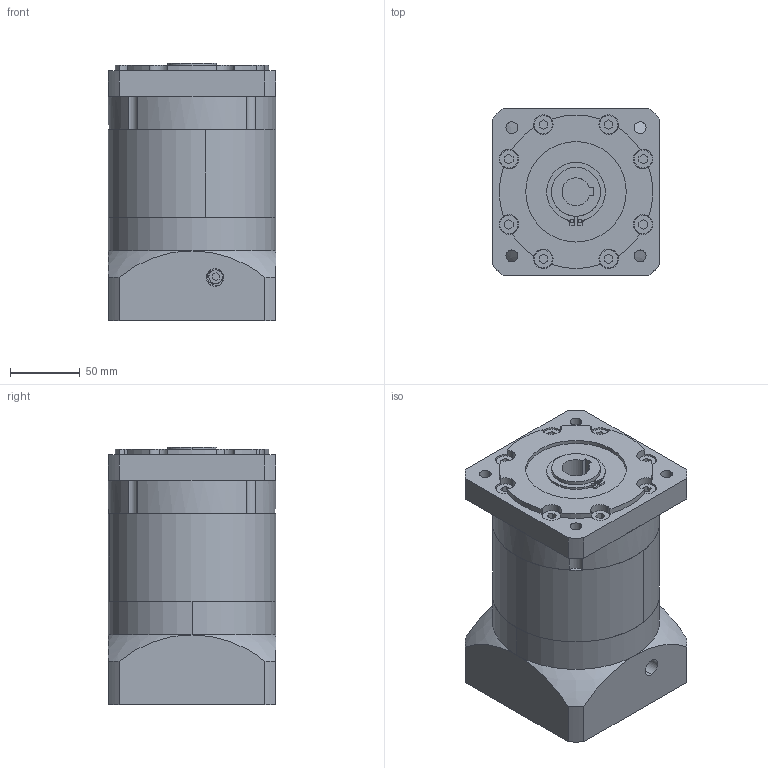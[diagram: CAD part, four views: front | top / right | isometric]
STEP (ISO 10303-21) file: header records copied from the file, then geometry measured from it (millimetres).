
FILE_DESCRIPTION (( 'STEP AP203' ), '1' );
FILE_NAME ('PBF120-L2-22-110-145.STEP', '2022-07-21T09:42:59', ( 'Windows User' ), ( 'P R C' ), 'SwSTEP 2.0', 'SolidWorks 2016', '' );
FILE_SCHEMA (( 'CONFIG_CONTROL_DESIGN' ));
Length unit declared in the file: millimetre
Products named in the file (7): 囀鞠褒蹟佪 M6x20; PBF120 蟀諉啣--LR57; PBF120 內齿圈-优化_二级内齿圈; PBF120 奻屳唳-謂怀堤-20-B6; PBF120 狟屳唳; 粣創-6007 40x68x15; PBF120-L2-22-110-145
Assembly tree (6 placements, depth 2):
  PBF120-L2-22-110-145
    囀鞠褒蹟佪 M6x20
    PBF120 蟀諉啣--LR57
    PBF120 內齿圈-优化_二级内齿圈
    PBF120 奻屳唳-謂怀堤-20-B6
    PBF120 狟屳唳
    粣創-6007 40x68x15
Bounding box: 120 x 120 x 184.5 mm (x, y, z)
Volume: 1992296 mm3; surface area: 246358.9 mm2
Topology: 6 solids, 14 shells, 1122 faces, 3027 edges, 2006 vertices
Faces by surface type: plane 624, cylinder 208, bspline 134, sphere 94, torus 52, cone 10
Entity records: 45543 total; most frequent: CARTESIAN_POINT 17479, ORIENTED_EDGE 6026, DIRECTION 5166, EDGE_CURVE 3013, VERTEX_POINT 2002, AXIS2_PLACEMENT_3D 1820, LINE 1526, VECTOR 1526
